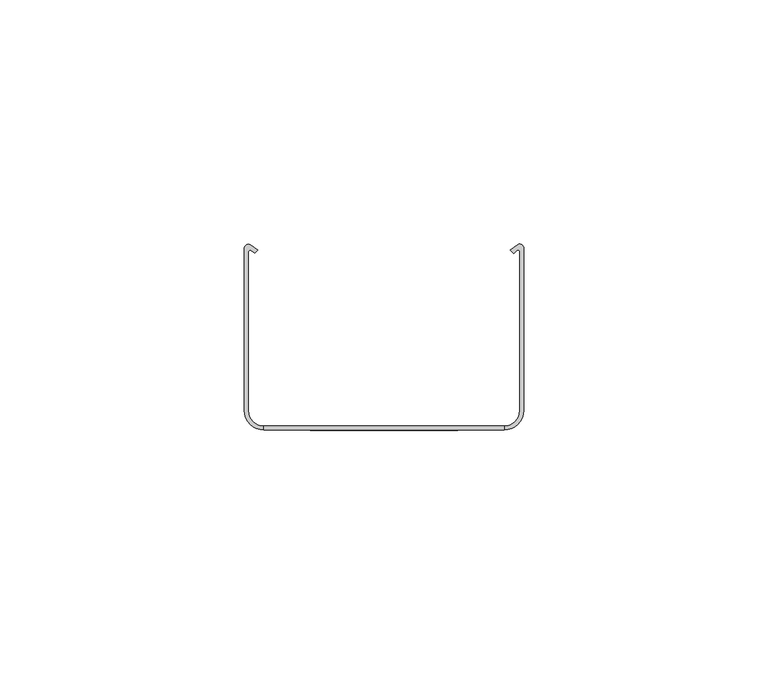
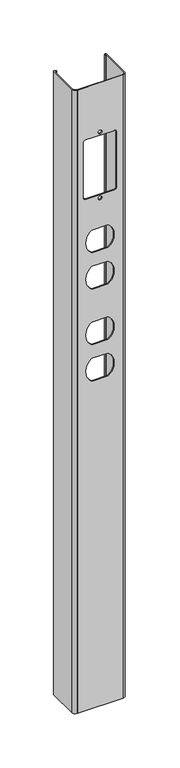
"""IFC4 building model written with IfcOpenShell, lengths in millimetres: proxy geometry, Accessory-Wiremold-Add-on_Power_Cover : AMDTP-L."""

from ifc_helpers import new_model, si_unit, point, frame, frame_2d, origin, origin_with_axes, place, context, project, spatial, polyline, circle_curve, trimmed, segment, composite_curve, outline, extrude, source, transform, mapped, element, save


def electrical_fixtures_af964e40(model_context):
    return source(origin(), model_context, "Body", "SweptSolid", [
        extrude(outline(polyline([(711.2, 24.575), (711.2, -24.575), (0.0, -24.575), (0.0, 24.575), (711.2, 24.575)]), holes=[composite_curve([segment(trimmed(circle_curve(frame_2d((654.8262201, 0.0)), 2.0), [point((654.8262201, 2.0))], [point((654.8262201, -2.0))], True, "CARTESIAN"), True, "CONTINUOUS"), segment(trimmed(circle_curve(frame_2d((654.8262201, 0.0)), 2.0), [point((654.8262201, -2.0))], [point((654.8262201, 2.0))], True, "CARTESIAN"), True, "CONTINUOUS")], self_intersect=False), composite_curve([segment(trimmed(circle_curve(frame_2d((579.5788384, 0.0)), 1.9601095), [point((579.5788384, -1.9601095))], [point((579.5788384, 1.9601095))], True, "CARTESIAN"), True, "CONTINUOUS"), segment(trimmed(circle_curve(frame_2d((579.5788384, 0.0)), 1.9601095), [point((579.5788384, 1.9601095))], [point((579.5788384, -1.9601095))], True, "CARTESIAN"), True, "CONTINUOUS")], self_intersect=False), composite_curve([segment(trimmed(circle_curve(frame_2d((585.9505652, -15.3313878)), 2.5160157), [point((583.4345495, -15.3313878))], [point((585.9505652, -17.8474035))], True, "CARTESIAN"), True, "CONTINUOUS"), segment(polyline([(585.9505652, -17.8474035), (648.4702847, -17.8474035)]), True, "CONTINUOUS"), segment(trimmed(circle_curve(frame_2d((648.4702847, -15.311744)), 2.5356595), [point((648.4702847, -17.8474035))], [point((651.0059442, -15.311744))], True, "CARTESIAN"), True, "CONTINUOUS"), segment(polyline([(651.0059442, -15.311744), (651.0059442, 15.331726)]), True, "CONTINUOUS"), segment(trimmed(circle_curve(frame_2d((648.4902666, 15.331726)), 2.5156776), [point((651.0059442, 15.331726))], [point((648.4902666, 17.8474035))], True, "CARTESIAN"), True, "CONTINUOUS"), segment(polyline([(648.4902666, 17.8474035), (585.9345495, 17.8474035)]), True, "CONTINUOUS"), segment(trimmed(circle_curve(frame_2d((585.9345495, 15.3474035)), 2.5), [point((585.9345495, 17.8474035))], [point((583.4345495, 15.3474035))], True, "CARTESIAN"), True, "CONTINUOUS"), segment(polyline([(583.4345495, 15.3474035), (583.4345495, -15.3313878)]), True, "CONTINUOUS")], self_intersect=False), composite_curve([segment(polyline([(531.7725156, -15.092834), (533.7798687, -15.092834)]), True, "CONTINUOUS"), segment(trimmed(circle_curve(frame_2d((533.7798687, -0.9967117)), 14.0961223), [point((533.7798687, -15.092834))], [point((545.6490574, -8.6008568))], True, "CARTESIAN"), True, "CONTINUOUS"), segment(polyline([(545.6490574, -8.6008568), (545.6490574, 8.6011223)]), True, "CONTINUOUS"), segment(trimmed(circle_curve(frame_2d((533.8219727, 0.9958893)), 14.0612766), [point((545.6490574, 8.6011223))], [point((533.8219727, 15.057166))], True, "CARTESIAN"), True, "CONTINUOUS"), segment(polyline([(533.8219727, 15.057166), (531.7346852, 15.057166)]), True, "CONTINUOUS"), segment(trimmed(circle_curve(frame_2d((531.7346852, 0.982166)), 14.075), [point((531.7346852, 15.057166))], [point((519.9848336, 8.7311408))], True, "CARTESIAN"), True, "CONTINUOUS"), segment(polyline([(519.9848336, 8.7311408), (519.9848336, -8.7313592)]), True, "CONTINUOUS"), segment(trimmed(circle_curve(frame_2d((531.7725156, -0.9909304)), 14.1019036), [point((519.9848336, -8.7313592))], [point((531.7725156, -15.092834))], True, "CARTESIAN"), True, "CONTINUOUS")], self_intersect=False), composite_curve([segment(polyline([(490.3725156, -15.092834), (492.3798687, -15.092834)]), True, "CONTINUOUS"), segment(trimmed(circle_curve(frame_2d((492.3798687, -0.9967117)), 14.0961223), [point((492.3798687, -15.092834))], [point((504.2490574, -8.6008568))], True, "CARTESIAN"), True, "CONTINUOUS"), segment(polyline([(504.2490574, -8.6008568), (504.2490574, 8.6011223)]), True, "CONTINUOUS"), segment(trimmed(circle_curve(frame_2d((492.4219727, 0.9958893)), 14.0612766), [point((504.2490574, 8.6011223))], [point((492.4219727, 15.057166))], True, "CARTESIAN"), True, "CONTINUOUS"), segment(polyline([(492.4219727, 15.057166), (490.3346852, 15.057166)]), True, "CONTINUOUS"), segment(trimmed(circle_curve(frame_2d((490.3346852, 0.982166)), 14.075), [point((490.3346852, 15.057166))], [point((478.5848336, 8.7311408))], True, "CARTESIAN"), True, "CONTINUOUS"), segment(polyline([(478.5848336, 8.7311408), (478.5848336, -8.7313592)]), True, "CONTINUOUS"), segment(trimmed(circle_curve(frame_2d((490.3725156, -0.9909304)), 14.1019036), [point((478.5848336, -8.7313592))], [point((490.3725156, -15.092834))], True, "CARTESIAN"), True, "CONTINUOUS")], self_intersect=False), composite_curve([segment(polyline([(426.7872895, -15.092834), (428.7946426, -15.092834)]), True, "CONTINUOUS"), segment(trimmed(circle_curve(frame_2d((428.7946426, -0.9967117)), 14.0961223), [point((428.7946426, -15.092834))], [point((440.6638314, -8.6008568))], True, "CARTESIAN"), True, "CONTINUOUS"), segment(polyline([(440.6638314, -8.6008568), (440.6638314, 8.6011223)]), True, "CONTINUOUS"), segment(trimmed(circle_curve(frame_2d((428.8367467, 0.9958893)), 14.0612766), [point((440.6638314, 8.6011223))], [point((428.8367467, 15.057166))], True, "CARTESIAN"), True, "CONTINUOUS"), segment(polyline([(428.8367467, 15.057166), (426.7494592, 15.057166)]), True, "CONTINUOUS"), segment(trimmed(circle_curve(frame_2d((426.7494592, 0.982166)), 14.075), [point((426.7494592, 15.057166))], [point((414.9996075, 8.7311408))], True, "CARTESIAN"), True, "CONTINUOUS"), segment(polyline([(414.9996075, 8.7311408), (414.9996075, -8.7313592)]), True, "CONTINUOUS"), segment(trimmed(circle_curve(frame_2d((426.7872895, -0.9909304)), 14.1019036), [point((414.9996075, -8.7313592))], [point((426.7872895, -15.092834))], True, "CARTESIAN"), True, "CONTINUOUS")], self_intersect=False), composite_curve([segment(polyline([(385.3872895, -15.092834), (387.3946426, -15.092834)]), True, "CONTINUOUS"), segment(trimmed(circle_curve(frame_2d((387.3946426, -0.9967117)), 14.0961223), [point((387.3946426, -15.092834))], [point((399.2638314, -8.6008568))], True, "CARTESIAN"), True, "CONTINUOUS"), segment(polyline([(399.2638314, -8.6008568), (399.2638314, 8.6011223)]), True, "CONTINUOUS"), segment(trimmed(circle_curve(frame_2d((387.4367467, 0.9958893)), 14.0612766), [point((399.2638314, 8.6011223))], [point((387.4367467, 15.057166))], True, "CARTESIAN"), True, "CONTINUOUS"), segment(polyline([(387.4367467, 15.057166), (385.3494592, 15.057166)]), True, "CONTINUOUS"), segment(trimmed(circle_curve(frame_2d((385.3494592, 0.982166)), 14.075), [point((385.3494592, 15.057166))], [point((373.5996075, 8.7311408))], True, "CARTESIAN"), True, "CONTINUOUS"), segment(polyline([(373.5996075, 8.7311408), (373.5996075, -8.7313592)]), True, "CONTINUOUS"), segment(trimmed(circle_curve(frame_2d((385.3872895, -0.9909304)), 14.1019036), [point((373.5996075, -8.7313592))], [point((385.3872895, -15.092834))], True, "CARTESIAN"), True, "CONTINUOUS")], self_intersect=False)]), frame((0.0, 0.0, 0.0), z_axis=(0.0, 1.0, 0.0), x_axis=(0.0, 0.0, 1.0)), (0.0, 0.0, 1.0), 0.8),
        extrude(outline(composite_curve([segment(trimmed(circle_curve(frame_2d((-27.7798045, 37.2398141)), 0.7951955), [point((-28.575, 37.2398141))], [point((-27.3144932, 37.8846563))], False, "CARTESIAN"), True, "CONTINUOUS"), segment(polyline([(-27.3144932, 37.8846563), (-25.8694589, 36.8419348), (-26.4580792, 36.2533145), (-27.1741279, 36.7700076)]), True, "CONTINUOUS"), segment(trimmed(circle_curve(frame_2d((-27.3959375, 36.4626173)), 0.3790625), [point((-27.1741279, 36.7700076))], [point((-27.775, 36.4626173))], True, "CARTESIAN"), True, "CONTINUOUS"), segment(polyline([(-27.775, 36.4626173), (-27.775, 4.0)]), True, "CONTINUOUS"), segment(trimmed(circle_curve(frame_2d((-24.575, 4.0)), 3.2), [point((-27.775, 4.0))], [point((-24.575, 0.8))], True, "CARTESIAN"), True, "CONTINUOUS"), segment(polyline([(-24.575, 0.8), (-24.575, 0.0)]), True, "CONTINUOUS"), segment(trimmed(circle_curve(frame_2d((-24.575, 4.0)), 4.0), [point((-24.575, 0.0))], [point((-28.575, 4.0))], False, "CARTESIAN"), True, "CONTINUOUS"), segment(polyline([(-28.575, 4.0), (-28.575, 37.2398141)]), True, "CONTINUOUS")], self_intersect=False)), origin_with_axes(), (0.0, 0.0, 1.0), 711.2),
        extrude(outline(composite_curve([segment(trimmed(circle_curve(frame_2d((24.575, 4.0)), 4.0), [point((28.575, 4.0))], [point((24.575, 0.0))], False, "CARTESIAN"), True, "CONTINUOUS"), segment(polyline([(24.575, 0.0), (24.575, 0.8)]), True, "CONTINUOUS"), segment(trimmed(circle_curve(frame_2d((24.575, 4.0)), 3.2), [point((24.575, 0.8))], [point((27.775, 4.0))], True, "CARTESIAN"), True, "CONTINUOUS"), segment(polyline([(27.775, 4.0), (27.775, 36.5180475)]), True, "CONTINUOUS"), segment(trimmed(circle_curve(frame_2d((27.4217453, 36.5180475)), 0.3532547), [point((27.775, 36.5180475))], [point((27.1719566, 36.7678363))], True, "CARTESIAN"), True, "CONTINUOUS"), segment(polyline([(27.1719566, 36.7678363), (26.557757, 36.1536367), (25.8694589, 36.8419348), (27.3144932, 37.8846563)]), True, "CONTINUOUS"), segment(trimmed(circle_curve(frame_2d((27.8011879, 37.2830638)), 0.7738121), [point((27.3144932, 37.8846563))], [point((28.575, 37.2830638))], False, "CARTESIAN"), True, "CONTINUOUS"), segment(polyline([(28.575, 37.2830638), (28.575, 4.0)]), True, "CONTINUOUS")], self_intersect=False)), origin_with_axes(), (0.0, 0.0, 1.0), 711.2),
    ])


if __name__ == "__main__":
    model = new_model("IFC4")
    model_context = context("Model", 3, world=origin())
    ifc_project = project(units=[si_unit("LENGTHUNIT", "METRE", prefix="MILLI")], contexts=[model_context])
    site = spatial("IfcSite", under=ifc_project)
    building = spatial("IfcBuilding", under=site)
    placement = place(None, origin())
    electrical_fixtures_shape = electrical_fixtures_af964e40(model_context)
    element("IfcBuildingElementProxy", 1, Name="Accessory-Wiremold-Add-on_Power_Cover : AMDTP-L", ObjectType="Accessory-Wiremold-Add-on_Power_Cover : AMDTP-L", at=placement, inside=building, context=model_context, shape_type="MappedRepresentation", body=[
        mapped(electrical_fixtures_shape, transform((0.0, 0.0, 0.0), x_axis=(1.0, 0.0, 0.0), y_axis=(0.0, 1.0, 0.0), z_axis=(0.0, 0.0, 1.0))),
    ])
    save(model, "model.ifc")
